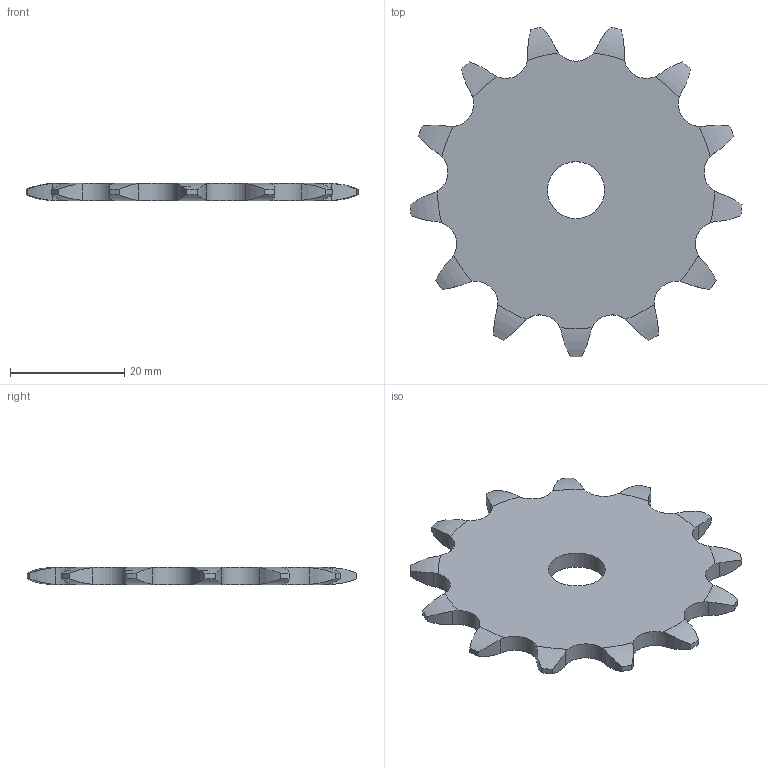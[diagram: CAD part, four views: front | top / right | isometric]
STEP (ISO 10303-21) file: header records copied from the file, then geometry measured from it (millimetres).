
FILE_DESCRIPTION((''),'2;1');
FILE_NAME('500-201-0013_PRT','2021-02-12T',('Brieden'),('Brieden'),'PRO/ENGINEER BY PARAMETRIC TECHNOLOGY CORPORATION, 2010160','PRO/ENGINEER BY PARAMETRIC TECHNOLOGY CORPORATION, 2010160','');
FILE_SCHEMA(('AUTOMOTIVE_DESIGN { 1 0 10303 214 1 1 1 1 }'));
Length unit declared in the file: millimetre
Products named in the file (1): 500-201-0013_PRT
Bounding box: 58.17 x 57.76 x 3 mm (x, y, z)
Volume: 5682.3 mm3; surface area: 4605.6 mm2
Topology: 1 solids, 1 shells, 82 faces, 240 edges, 160 vertices
Faces by surface type: cylinder 54, torus 26, plane 2
Entity records: 3862 total; most frequent: CARTESIAN_POINT 1015, ORIENTED_EDGE 480, DIRECTION 382, PRESENTATION_STYLE_ASSIGNMENT 241, STYLED_ITEM 241, CURVE_STYLE 240, EDGE_CURVE 240, AXIS2_PLACEMENT_3D 164
